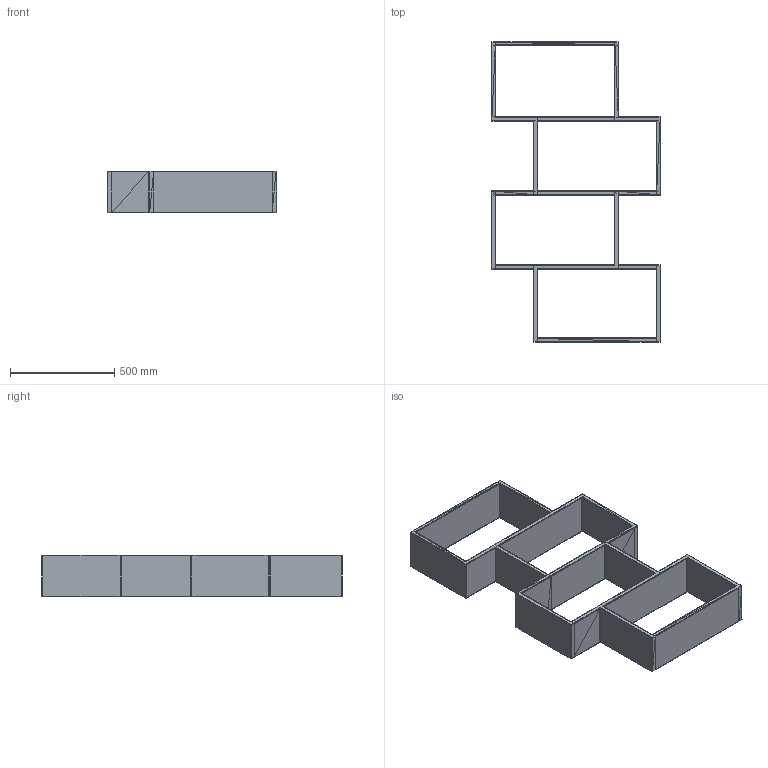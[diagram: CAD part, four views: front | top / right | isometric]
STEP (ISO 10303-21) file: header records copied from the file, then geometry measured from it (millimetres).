
FILE_DESCRIPTION(('FreeCAD Model'),'2;1');
FILE_NAME('Open CASCADE Shape Model','2024-09-16T11:21:31',('Author'),( ''),'Open CASCADE STEP processor 7.6','FreeCAD','Unknown');
FILE_SCHEMA(('AUTOMOTIVE_DESIGN { 1 0 10303 214 1 1 1 1 }'));
Products named in the file (1): Bialy_Obj002 (Solid)
Bounding box: 812 x 1443.18 x 200 mm (x, y, z)
Volume: 27480643.3 mm3; surface area: 2744876.1 mm2
Topology: 1 solids, 1 shells, 16739 faces, 25577 edges, 8832 vertices
Faces by surface type: plane 16739
Entity records: 330645 total; most frequent: DIRECTION 59057, ORIENTED_EDGE 51154, CARTESIAN_POINT 51149, EDGE_CURVE 25577, LINE 25577, VECTOR 25577, AXIS2_PLACEMENT_3D 16740, ADVANCED_FACE 16739
